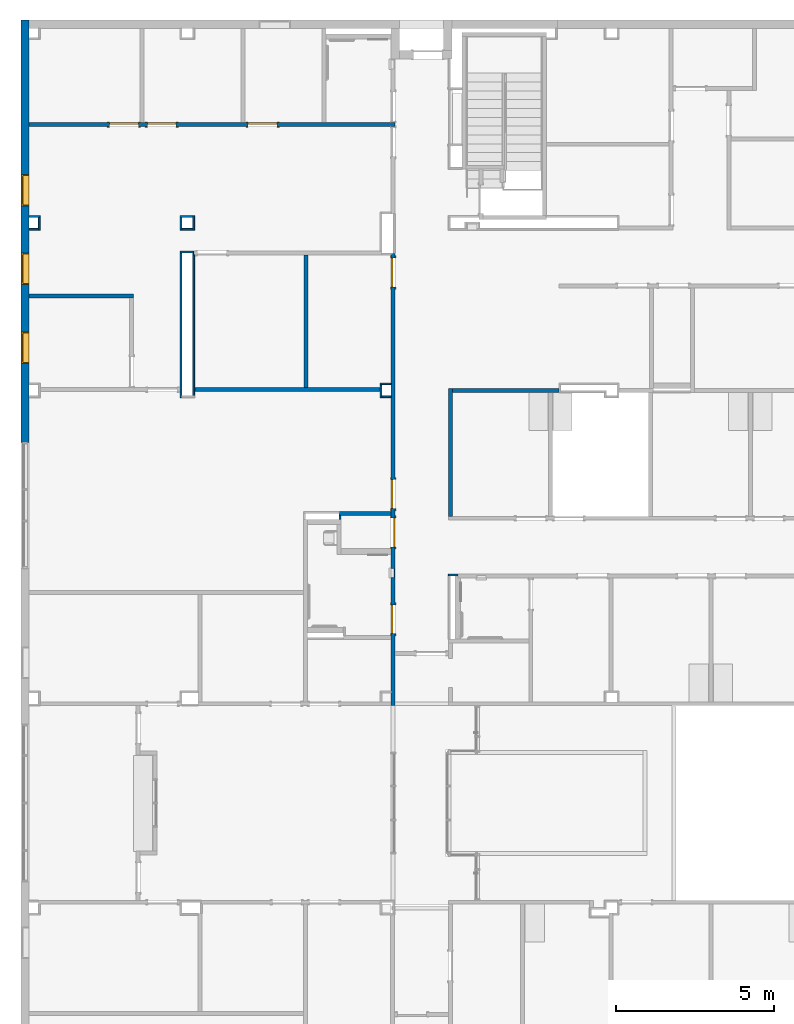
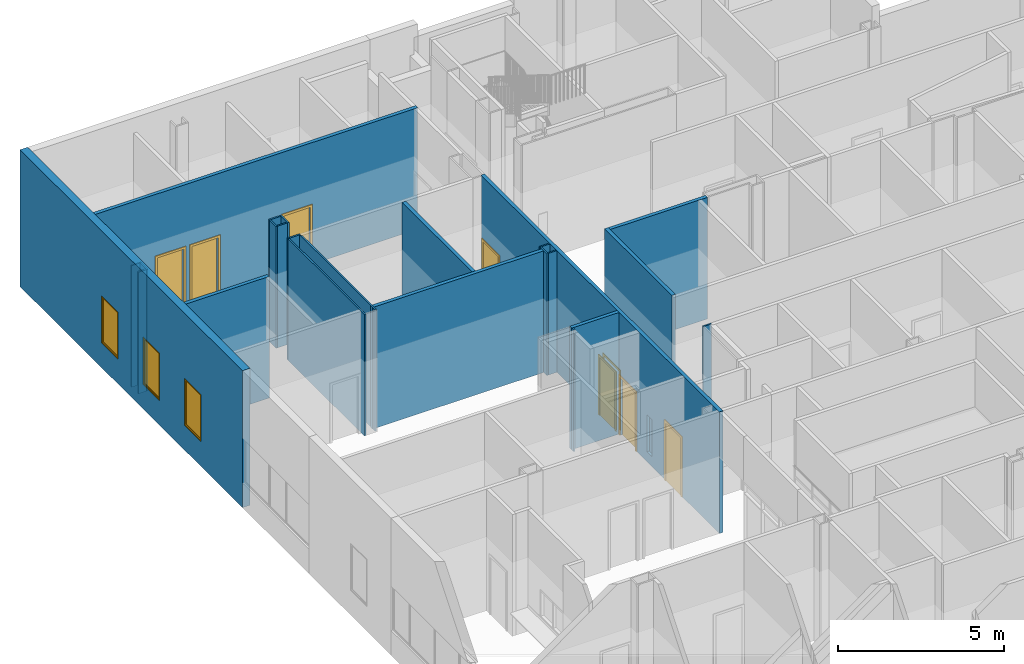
# One storey, part 31 of 82: 24 walls, 7 doors, 3 windows, 11 openings.
"""IFC2X3 building model written with IfcOpenShell, lengths in metres."""

import ifcopenshell
import ifcopenshell.guid

model = None  # the IFC model being written
_history = None  # IfcOwnerHistory: only IFC2X3 demands one
_inside = {}  # id of a spatial element -> (the spatial element, [elements in it])
_under = {}  # id of a project, library or spatial element -> (it, [spatial elements below it])
_declared = {}  # id of a project -> (the project, [libraries it declares])
_typed = {}  # id of a type object -> (the type object, [elements of that type])
_made_of = {}  # id of a material, layer set ... -> (it, [elements and type objects made of it])


def new_model(schema):
    """Start an empty IFC model of exactly this schema.

    Asked for "IFC4X3", IfcOpenShell would pick the latest addendum, in which some entities
    have other attributes; the version numbers below select the first issue.
    IFC2X3 requires an IfcOwnerHistory on every rooted entity: one is made here for all.
    """
    global model, _history
    if schema == "IFC4X3":
        model = ifcopenshell.file(schema_version=(4, 3, 0, 0))
    else:
        model = ifcopenshell.file(schema=schema)
    _inside.clear()
    _under.clear()
    _declared.clear()
    _typed.clear()
    _made_of.clear()
    _history = None
    if model.schema == "IFC2X3":
        org = make("IfcOrganization", Name="unknown")
        user = make(
            "IfcPersonAndOrganization",
            ThePerson=make("IfcPerson", FamilyName="unknown"),
            TheOrganization=org,
        )
        app = make(
            "IfcApplication",
            ApplicationDeveloper=org,
            Version="unknown",
            ApplicationFullName="unknown",
            ApplicationIdentifier="unknown",
        )
        _history = make(
            "IfcOwnerHistory",
            OwningUser=user,
            OwningApplication=app,
            ChangeAction="ADDED",
            CreationDate=0,
        )
    return model


def make(cls, **values):
    """One entity of the class cls with the attributes given. An attribute that is None is left unset."""
    return model.create_entity(
        cls, **{name: value for name, value in values.items() if value is not None}
    )


def entity(cls, *values):
    """Any entity or typed value of the class cls, its attributes in the order of the schema. None: left unset."""
    e = model.create_entity(cls)
    for i, value in enumerate(values):
        if value is not None:
            e[i] = value
    return e


def rooted(cls, **values):
    """An entity with a GlobalId (a new one), such as an element, a storey or a relation."""
    return make(cls, GlobalId=ifcopenshell.guid.new(), OwnerHistory=_history, **values)


def si_unit(unit_type, name, prefix=None):
    """IfcSIUnit, for example si_unit("LENGTHUNIT", "METRE", prefix="MILLI")."""
    return make("IfcSIUnit", UnitType=unit_type, Prefix=prefix, Name=name)


def converted_unit(unit_type, name, factor, base, dimensions=None, offset=None):
    """IfcConversionBasedUnit, such as the inch: factor (a typed value) times the base unit."""
    return make(
        "IfcConversionBasedUnit"
        if offset is None
        else "IfcConversionBasedUnitWithOffset",
        ConversionOffset=offset,
        Dimensions=None
        if dimensions is None
        else entity("IfcDimensionalExponents", *dimensions),
        UnitType=unit_type,
        Name=name,
        ConversionFactor=make(
            "IfcMeasureWithUnit", ValueComponent=factor, UnitComponent=base
        ),
    )


def assignment(units):
    """IfcUnitAssignment: the units of a project."""
    return None if units is None else make("IfcUnitAssignment", Units=units)


def point(xyz):
    """IfcCartesianPoint."""
    return None if xyz is None else make("IfcCartesianPoint", Coordinates=xyz)


def direction(xyz):
    """IfcDirection."""
    return None if xyz is None else make("IfcDirection", DirectionRatios=xyz)


def frame(location, z_axis=None, x_axis=None):
    """IfcAxis2Placement3D, a coordinate frame: its origin and axes. An axis left out is left unset."""
    return make(
        "IfcAxis2Placement3D",
        Location=point(location),
        Axis=direction(z_axis),
        RefDirection=direction(x_axis),
    )


def frame_2d(location, x_axis=None):
    """IfcAxis2Placement2D, a coordinate frame in the plane: its origin and x axis."""
    return make(
        "IfcAxis2Placement2D", Location=point(location), RefDirection=direction(x_axis)
    )


def origin():
    """The frame at (0, 0, 0) with its axes left unset."""
    return frame((0.0, 0.0, 0.0))


def origin_2d_with_axis():
    """The frame at (0, 0) in the plane with the x axis (1, 0) written out."""
    return frame_2d((0.0, 0.0), x_axis=(1.0, 0.0))


def place(relative_to, where):
    """IfcLocalPlacement: puts the frame where relative to a parent placement (None: the world)."""
    return make(
        "IfcLocalPlacement", PlacementRelTo=relative_to, RelativePlacement=where
    )


def context(
    kind, dimensions, precision=None, world=None, true_north=None, identifier=None
):
    """IfcGeometricRepresentationContext, for example the 3D "Model" context."""
    return make(
        "IfcGeometricRepresentationContext",
        ContextIdentifier=identifier,
        ContextType=kind,
        CoordinateSpaceDimension=dimensions,
        Precision=precision,
        WorldCoordinateSystem=world,
        TrueNorth=true_north,
    )


def project(units=None, contexts=None):
    """IfcProject with its units and contexts."""
    return rooted(
        "IfcProject",
        Name="project",
        RepresentationContexts=contexts,
        UnitsInContext=assignment(units),
    )


def spatial(cls, under=None, at=None, **own):
    """A site, building, storey or space (cls), placed at a placement, below another one or the project."""
    s = rooted(cls, ObjectPlacement=at, **own)
    if under is not None:
        _under.setdefault(under.id(), (under, []))[1].append(s)
    return s


def polyline(points):
    """IfcPolyline through the points."""
    return make("IfcPolyline", Points=[point(p) for p in points])


def profile(cls, at=None, kind="AREA", **sizes):
    """A parametric profile (cls). Its sizes go by their IFC names, for example OverallWidth=200.0."""
    return make(cls, ProfileType=kind, Position=at, **sizes)


def rectangle(**sizes):
    """IfcRectangleProfileDef."""
    return profile("IfcRectangleProfileDef", **sizes)


def outline(outer, holes=None, kind="AREA"):
    """IfcArbitraryClosedProfileDef: a profile drawn as a closed curve; with holes, ...WithVoids."""
    if holes is None:
        return make("IfcArbitraryClosedProfileDef", ProfileType=kind, OuterCurve=outer)
    return make(
        "IfcArbitraryProfileDefWithVoids",
        ProfileType=kind,
        OuterCurve=outer,
        InnerCurves=holes,
    )


def extrude(swept, where, along, depth):
    """IfcExtrudedAreaSolid: the profile swept, set in the frame where, extruded along a direction by depth."""
    return make(
        "IfcExtrudedAreaSolid",
        SweptArea=swept,
        Position=where,
        ExtrudedDirection=direction(along),
        Depth=depth,
    )


def shape(context_of_items, identifier, shape_type, items):
    """IfcShapeRepresentation: the items that make up one representation, for example the "Body"."""
    return make(
        "IfcShapeRepresentation",
        ContextOfItems=context_of_items,
        RepresentationIdentifier=identifier,
        RepresentationType=shape_type,
        Items=items,
    )


def source(mapping_origin, context_of_items, identifier, shape_type, items):
    """IfcRepresentationMap: a shape defined once, which mapped items show again and again."""
    return make(
        "IfcRepresentationMap",
        MappingOrigin=mapping_origin,
        MappedRepresentation=shape(context_of_items, identifier, shape_type, items),
    )


def transform(
    local_origin,
    x_axis=None,
    y_axis=None,
    z_axis=None,
    scale=None,
    scale2=None,
    scale3=None,
    uniform=True,
):
    """IfcCartesianTransformationOperator3D, or its non-uniform kind. x_axis, y_axis, z_axis: its Axis1, 2, 3."""
    if uniform:
        return make(
            "IfcCartesianTransformationOperator3D",
            Axis1=direction(x_axis),
            Axis2=direction(y_axis),
            LocalOrigin=point(local_origin),
            Scale=scale,
            Axis3=direction(z_axis),
        )
    return make(
        "IfcCartesianTransformationOperator3DnonUniform",
        Axis1=direction(x_axis),
        Axis2=direction(y_axis),
        LocalOrigin=point(local_origin),
        Scale=scale,
        Axis3=direction(z_axis),
        Scale2=scale2,
        Scale3=scale3,
    )


def mapped(mapping_source, mapping_target):
    """IfcMappedItem: shows the shape of a source again, moved by a transform."""
    return make(
        "IfcMappedItem", MappingSource=mapping_source, MappingTarget=mapping_target
    )


def material(Name=None, Category=None):
    """IfcMaterial."""
    return make("IfcMaterial", Name=Name, Category=Category)


def layer(
    of_material, thickness, ventilated=None, Name=None, Category=None, Priority=None
):
    """IfcMaterialLayer: one layer of a wall or slab, of a material (None: an air gap)."""
    return make(
        "IfcMaterialLayer",
        Material=of_material,
        LayerThickness=thickness,
        IsVentilated=ventilated,
        Name=Name,
        Category=Category,
        Priority=Priority,
    )


def layer_set(layers, Name=None):
    """IfcMaterialLayerSet."""
    return make("IfcMaterialLayerSet", MaterialLayers=layers, LayerSetName=Name)


def layer_usage(for_layer_set, set_direction, sense, offset, extent=None):
    """IfcMaterialLayerSetUsage: how a layer set lies in its element."""
    return make(
        "IfcMaterialLayerSetUsage",
        ForLayerSet=for_layer_set,
        LayerSetDirection=set_direction,
        DirectionSense=sense,
        OffsetFromReferenceLine=offset,
        ReferenceExtent=extent,
    )


def made_of(thing, what):
    """Note that an element or type object is made of a material, layer set ...; save() writes the relation."""
    if what is not None:
        _made_of.setdefault(what.id(), (what, []))[1].append(thing)
    return thing


def type_object(cls, material=None, **own):
    """A type object (cls), such as IfcWallType, which elements share."""
    return made_of(rooted(cls, **own), material)


def type_shapes(of_type, sources):
    """Give a type object the sources (RepresentationMaps) that its elements show as mapped items."""
    of_type.RepresentationMaps = sources


def element(
    cls,
    number,
    at=None,
    inside=None,
    cuts=None,
    type_object=None,
    material=None,
    context=None,
    identifier="Body",
    shape_type=None,
    held_by="IfcProductDefinitionShape",
    body=None,
    shapes=None,
    **own,
):
    """One element of the class cls, such as IfcWall. Its Tag is "e" and its number.

    at: its placement. inside: the storey or other place that contains it. cuts: it is an
    opening in that element (IfcRelVoidsElement). A single representation is given by context,
    identifier, shape_type and body (its items); several are given by shapes. held_by: the class
    of the entity that holds the representations. save() writes the other relations.
    """
    e = rooted(cls, Tag="e%d" % number, ObjectPlacement=at, **own)
    if body is not None:
        shapes = [shape(context, identifier, shape_type, body)]
    if shapes is not None:
        e.Representation = make(held_by, Representations=shapes)
    if inside is not None:
        _inside.setdefault(inside.id(), (inside, []))[1].append(e)
    if cuts is not None:
        rooted(
            "IfcRelVoidsElement", RelatingBuildingElement=cuts, RelatedOpeningElement=e
        )
    if type_object is not None:
        _typed.setdefault(type_object.id(), (type_object, []))[1].append(e)
    return made_of(e, material)


def fill(opening, filler):
    """IfcRelFillsElement: the door or window that sits in an opening."""
    return rooted(
        "IfcRelFillsElement",
        RelatingOpeningElement=opening,
        RelatedBuildingElement=filler,
    )


def aggregate(whole, parts):
    """IfcRelAggregates: a whole, such as a stair, and the parts it consists of."""
    return rooted("IfcRelAggregates", RelatingObject=whole, RelatedObjects=parts)


def save(model, path):
    """Write the relations noted so far, then the file.

    IfcRelAggregates (storeys below a building ...), IfcRelContainedInSpatialStructure (elements
    in a storey), IfcRelDefinesByType, IfcRelAssociatesMaterial and IfcRelDeclares: one each for
    every whole, place, type object, material and project.
    """
    for whole, parts in _under.values():
        aggregate(whole, parts)
    for where, things in _inside.values():
        rooted(
            "IfcRelContainedInSpatialStructure",
            RelatedElements=things,
            RelatingStructure=where,
        )
    for kind, things in _typed.values():
        rooted("IfcRelDefinesByType", RelatedObjects=things, RelatingType=kind)
    for what, things in _made_of.values():
        rooted("IfcRelAssociatesMaterial", RelatedObjects=things, RelatingMaterial=what)
    for by, libraries in _declared.values():
        rooted("IfcRelDeclares", RelatingContext=by, RelatedDefinitions=libraries)
    model.write(path)


model = new_model("IFC2X3")

# Units and contexts
model_context = context("Model", 3, precision=1e-09, world=origin())
plan_context = context("Plan", 3, precision=1e-09, world=origin())
ifc_project = project(units=[si_unit("LENGTHUNIT", "METRE"), si_unit("AREAUNIT", "SQUARE_METRE"), si_unit("VOLUMEUNIT", "CUBIC_METRE"), converted_unit("PLANEANGLEUNIT", "DEGREE", entity("IfcRatioMeasure", 0.01745329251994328), si_unit("PLANEANGLEUNIT", "RADIAN"), dimensions=[0, 0, 0, 0, 0, 0, 0]), si_unit("TIMEUNIT", "SECOND")], contexts=[model_context, plan_context])

# Site, building, storey
site_placement = place(None, origin())
site = spatial("IfcSite", under=ifc_project, at=site_placement, Name="Default", CompositionType="ELEMENT")
building_placement = place(site_placement, origin())
building = spatial("IfcBuilding", under=site, at=building_placement, CompositionType="ELEMENT")
storey_placement = place(building_placement, origin())
storey = spatial("IfcBuildingStorey", under=building, at=storey_placement, Name="First Floor", CompositionType="ELEMENT", Elevation=-3.531500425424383e-13)

# Wall, openings, doors
ifc_material_1 = material(Name="Plasterboard")
ifc_layer_1 = layer(ifc_material_1, 0.016)
ifc_material_2 = material(Name="Metal - Stud Layer")
ifc_layer_2 = layer(ifc_material_2, 0.092)
ifc_layer_3 = layer(ifc_material_1, 0.016)
ifc_layer_set_1 = layer_set([ifc_layer_1, ifc_layer_2, ifc_layer_3], Name="Basic Wall:Interior - Partition (92mm Stud)")
ifc_layer_usage_1 = layer_usage(ifc_layer_set_1, "AXIS2", "NEGATIVE", 0.062)
wall_1_placement = place(storey_placement, frame((-40.47500000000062, 49.12399999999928, 0.0), z_axis=(0.0, 0.0, 1.0), x_axis=(0.0, -1.0, 0.0)))
wall_1 = element("IfcWallStandardCase", 1, at=wall_1_placement, inside=storey, material=ifc_layer_usage_1, Name="Basic Wall:Interior - Partition (92mm Stud)", ObjectType="Basic Wall:Interior - Partition (92mm Stud)", context=model_context, shape_type="SweptSolid", body=[
    extrude(rectangle(XDim=14.34400000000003, YDim=0.1240000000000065, at=frame_2d((7.172000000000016, 0.0), x_axis=(-1.0, 0.0))), origin(), (0.0, 0.0, 1.0), 4.468000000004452),
])
opening_1_placement = place(wall_1_placement, origin())
element("IfcOpeningElement", 2, at=opening_1_placement, cuts=wall_1, ObjectType="Opening", context=model_context, shape_type="SweptSolid", body=[
    extrude(rectangle(XDim=1.362075, YDim=0.2984500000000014, at=origin_2d_with_axis()), frame((10.13570000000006, -0.1255000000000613, 1.041399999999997), z_axis=(0.0, 1.0, 0.0), x_axis=(0.0, 0.0, -1.0)), (0.0, 0.0, 1.0), 0.15240000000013),
])
opening_2_placement = place(wall_1_placement, frame((8.391600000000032, -0.06200000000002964, 0.0)))
opening_2 = element("IfcOpeningElement", 3, at=opening_2_placement, cuts=wall_1, Name=":1", ObjectType="Opening", context=model_context, shape_type="SweptSolid", body=[
    extrude(rectangle(XDim=0.9149999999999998, YDim=2.134, at=frame_2d((1.067, 0.4575), x_axis=(0.0, 1.0))), frame((0.0, 0.0, 0.0), z_axis=(0.0, 1.0, 0.0), x_axis=(0.0, 0.0, 1.0)), (0.0, 0.0, 1.0), 0.124),
])
opening_3_placement = place(wall_1_placement, frame((12.05999999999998, 0.06199999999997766, 0.0)))
opening_3 = element("IfcOpeningElement", 4, at=opening_3_placement, cuts=wall_1, Name=":1", ObjectType="Opening", context=model_context, shape_type="SweptSolid", body=[
    extrude(rectangle(XDim=0.9149999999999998, YDim=2.134, at=frame_2d((1.067, 0.4574999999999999), x_axis=(0.0, -1.0))), frame((0.0, 0.0, 0.0), z_axis=(0.0, -1.0, 0.0), x_axis=(0.0, 0.0, 1.0)), (0.0, 0.0, 1.0), 0.124),
])
opening_4_placement = place(wall_1_placement, frame((8.094000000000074, 0.06199999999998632, 0.0)))
opening_4 = element("IfcOpeningElement", 5, at=opening_4_placement, cuts=wall_1, Name=":1", ObjectType="Opening", context=model_context, shape_type="SweptSolid", body=[
    extrude(rectangle(XDim=0.9149999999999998, YDim=2.134, at=frame_2d((1.067, 0.4574999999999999), x_axis=(0.0, -1.0))), frame((0.0, 0.0, 0.0), z_axis=(0.0, -1.0, 0.0), x_axis=(0.0, 0.0, 1.0)), (0.0, 0.0, 1.0), 0.124),
])
opening_5_placement = place(wall_1_placement, frame((1.068999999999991, 0.06199999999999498, 0.0)))
opening_5 = element("IfcOpeningElement", 6, at=opening_5_placement, cuts=wall_1, Name=":1", ObjectType="Opening", context=model_context, shape_type="SweptSolid", body=[
    extrude(rectangle(XDim=0.9149999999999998, YDim=2.134, at=frame_2d((1.067, 0.4575), x_axis=(0.0, 1.0))), frame((0.0, 0.0, 0.0), z_axis=(0.0, -1.0, 0.0), x_axis=(0.0, 0.0, 1.0)), (0.0, 0.0, 1.0), 0.124),
])
door_style_1 = type_object("IfcDoorStyle", Name="0915 x 2134mm", ConstructionType="NOTDEFINED", OperationType="SINGLE_SWING_RIGHT", ParameterTakesPrecedence=False, Sizeable=False)
shared_shape_1 = source(origin(), model_context, "Body", "SweptSolid", [
    extrude(outline(polyline([(-0.5335, -1.123999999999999), (0.5334999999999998, -1.123999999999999), (0.5334999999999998, 1.086), (0.4574999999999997, 1.086), (0.4574999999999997, -1.048000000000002), (-0.4574999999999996, -1.048000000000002), (-0.4574999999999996, 1.086), (-0.5335, 1.086), (-0.5335, -1.123999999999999)])), frame((0.4575000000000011, 0.1239999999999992, 1.086), z_axis=(0.0, 1.0, 0.0), x_axis=(1.0, 0.0, 0.0)), (0.0, 0.0, 1.0), 0.02499999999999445),
    extrude(outline(polyline([(-1.123999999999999, -0.5334999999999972), (1.085999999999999, -0.5334999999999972), (1.085999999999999, -0.4575000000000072), (-1.048, -0.4575000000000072), (-1.048, 0.4575000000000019), (1.085999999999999, 0.4575000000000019), (1.085999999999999, 0.5335000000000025), (-1.123999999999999, 0.5335000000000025), (-1.123999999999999, -0.5334999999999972)])), frame((0.4575000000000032, -0.02500000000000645, 1.085999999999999), z_axis=(0.0, 1.0, 0.0), x_axis=(0.0, 0.0, -1.0)), (0.0, 0.0, 1.0), 0.02500000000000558),
    extrude(rectangle(XDim=0.051, YDim=0.9149999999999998, at=origin_2d_with_axis()), frame((0.4575000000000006, 0.09849999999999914, 0.0), z_axis=(0.0, 0.0, 1.0), x_axis=(0.0, 1.0, 0.0)), (0.0, 0.0, 1.0), 2.133999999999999),
])
type_shapes(door_style_1, [shared_shape_1])
door_1_placement = place(opening_2_placement, origin())
door_1 = element("IfcDoor", 7, at=door_1_placement, inside=storey, type_object=door_style_1, Name="M_Single-Flush:0915 x 2134mm:0915 x 2134mm", ObjectType="0915 x 2134mm", OverallHeight=2.134, OverallWidth=0.9149999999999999, context=model_context, shape_type="MappedRepresentation", body=[
    mapped(shared_shape_1, transform((0.0, 0.0, 0.0), scale=1.0)),
])
fill(opening_2, door_1)
door_2_placement = place(opening_5_placement, frame((0.0, 0.0, 0.0), z_axis=(0.0, 0.0, 1.0), x_axis=(-1.0, 0.0, 0.0)))
door_2 = element("IfcDoor", 8, at=door_2_placement, inside=storey, type_object=door_style_1, Name="M_Single-Flush:0915 x 2134mm:0915 x 2134mm", ObjectType="0915 x 2134mm", OverallHeight=2.134, OverallWidth=0.9149999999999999, context=model_context, shape_type="MappedRepresentation", body=[
    mapped(shared_shape_1, transform((0.0, 0.0, 0.0), scale=1.0)),
])
fill(opening_5, door_2)
door_style_2 = type_object("IfcDoorStyle", Name="0915 x 2134mm", ConstructionType="NOTDEFINED", OperationType="SINGLE_SWING_LEFT", ParameterTakesPrecedence=False, Sizeable=False)
shared_shape_2 = source(origin(), model_context, "Body", "SweptSolid", [
    extrude(outline(polyline([(-0.5335, -1.123999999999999), (0.5334999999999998, -1.123999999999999), (0.5334999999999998, 1.086), (0.4574999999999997, 1.086), (0.4574999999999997, -1.048000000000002), (-0.4574999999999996, -1.048000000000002), (-0.4574999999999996, 1.086), (-0.5335, 1.086), (-0.5335, -1.123999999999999)])), frame((0.4575000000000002, 0.1489999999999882, 1.086), z_axis=(0.0, -1.0, 0.0), x_axis=(-1.0, 0.0, 0.0)), (0.0, 0.0, 1.0), 0.02499999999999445),
    extrude(outline(polyline([(-1.123999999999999, -0.5334999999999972), (1.085999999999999, -0.5334999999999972), (1.085999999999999, -0.4575000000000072), (-1.048, -0.4575000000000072), (-1.048, 0.4575000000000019), (1.085999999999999, 0.4575000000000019), (1.085999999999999, 0.5335000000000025), (-1.123999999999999, 0.5335000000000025), (-1.123999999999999, -0.5334999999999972)])), frame((0.4574999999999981, 0.0, 1.085999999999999), z_axis=(0.0, -1.0, 0.0), x_axis=(0.0, 0.0, -1.0)), (0.0, 0.0, 1.0), 0.02500000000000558),
    extrude(rectangle(XDim=0.9149999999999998, YDim=0.051, at=origin_2d_with_axis()), frame((0.4575000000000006, 0.09849999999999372, 0.0)), (0.0, 0.0, 1.0), 2.133999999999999),
])
type_shapes(door_style_2, [shared_shape_2])
door_3_placement = place(opening_3_placement, frame((0.0, 0.0, 0.0), z_axis=(0.0, 0.0, 1.0), x_axis=(-1.0, 0.0, 0.0)))
door_3 = element("IfcDoor", 9, at=door_3_placement, inside=storey, type_object=door_style_2, Name="M_Single-Flush:0915 x 2134mm:0915 x 2134mm", ObjectType="0915 x 2134mm", OverallHeight=2.134, OverallWidth=0.9149999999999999, context=model_context, shape_type="MappedRepresentation", body=[
    mapped(shared_shape_2, transform((0.0, 0.0, 0.0), scale=1.0)),
])
fill(opening_3, door_3)
door_4_placement = place(opening_4_placement, frame((0.0, 0.0, 0.0), z_axis=(0.0, 0.0, 1.0), x_axis=(-1.0, 0.0, 0.0)))
door_4 = element("IfcDoor", 10, at=door_4_placement, inside=storey, type_object=door_style_2, Name="M_Single-Flush:0915 x 2134mm:0915 x 2134mm", ObjectType="0915 x 2134mm", OverallHeight=2.134, OverallWidth=0.9149999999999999, context=model_context, shape_type="MappedRepresentation", body=[
    mapped(shared_shape_2, transform((0.0, 0.0, 0.0), scale=1.0)),
])
fill(opening_4, door_4)

# Wall, openings, windows
ifc_material_3 = material(Name="Insulation - Insulated Panel")
ifc_layer_4 = layer(ifc_material_3, 0.042)
ifc_material_4 = material(Name="Metal - Firring")
ifc_layer_5 = layer(ifc_material_4, 0.038)
ifc_material_5 = material(Name="Wood - Sheathing - plywood")
ifc_layer_6 = layer(ifc_material_5, 0.019)
ifc_layer_7 = layer(ifc_material_2, 0.152)
ifc_layer_8 = layer(ifc_material_1, 0.016)
ifc_layer_set_2 = layer_set([ifc_layer_4, ifc_layer_5, ifc_layer_6, ifc_layer_7, ifc_layer_8], Name="Basic Wall:Exterior - Insul Panel on Mtl. Stud")
ifc_layer_usage_2 = layer_usage(ifc_layer_set_2, "AXIS2", "NEGATIVE", 0.1335)
wall_2_placement = place(storey_placement, frame((-52.14650000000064, 43.12995228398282, 0.0), z_axis=(0.0, 0.0, 1.0), x_axis=(0.0, 1.0, 0.0)))
wall_2 = element("IfcWallStandardCase", 11, at=wall_2_placement, inside=storey, material=ifc_layer_usage_2, Name="Basic Wall:Exterior - Insul Panel on Mtl. Stud", ObjectType="Basic Wall:Exterior - Insul Panel on Mtl. Stud", context=model_context, shape_type="SweptSolid", body=[
    extrude(rectangle(XDim=13.39004771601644, YDim=0.2670000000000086, at=frame_2d((6.695023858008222, 0.0), x_axis=(-1.0, 0.0))), origin(), (0.0, 0.0, 1.0), 5.02700000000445),
])
opening_6_placement = place(wall_2_placement, frame((7.490047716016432, -0.1335000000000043, 0.9049999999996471)))
opening_6 = element("IfcOpeningElement", 12, at=opening_6_placement, cuts=wall_2, Name=":1", ObjectType="Opening", context=model_context, shape_type="SweptSolid", body=[
    extrude(rectangle(XDim=1.734999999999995, YDim=0.9999999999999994, at=frame_2d((0.8674999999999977, 0.5000000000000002), x_axis=(1.0, 0.0))), frame((0.0, 0.0, 0.0), z_axis=(0.0, 1.0, 0.0), x_axis=(0.0, 0.0, 1.0)), (0.0, 0.0, 1.0), 0.267),
])
opening_7_placement = place(wall_2_placement, frame((5.000047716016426, -0.1335000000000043, 0.9049999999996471)))
opening_7 = element("IfcOpeningElement", 13, at=opening_7_placement, cuts=wall_2, Name=":1", ObjectType="Opening", context=model_context, shape_type="SweptSolid", body=[
    extrude(rectangle(XDim=1.734999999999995, YDim=0.9999999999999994, at=frame_2d((0.8674999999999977, 0.5000000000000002), x_axis=(1.0, 0.0))), frame((0.0, 0.0, 0.0), z_axis=(0.0, 1.0, 0.0), x_axis=(0.0, 0.0, 1.0)), (0.0, 0.0, 1.0), 0.267),
])
opening_8_placement = place(wall_2_placement, frame((2.500047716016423, -0.1334999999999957, 0.9049999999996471)))
opening_8 = element("IfcOpeningElement", 14, at=opening_8_placement, cuts=wall_2, Name=":1", ObjectType="Opening", context=model_context, shape_type="SweptSolid", body=[
    extrude(rectangle(XDim=1.734999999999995, YDim=0.9999999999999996, at=frame_2d((0.8674999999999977, 0.4999999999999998), x_axis=(1.0, 0.0))), frame((0.0, 0.0, 0.0), z_axis=(0.0, 1.0, 0.0), x_axis=(0.0, 0.0, 1.0)), (0.0, 0.0, 1.0), 0.267),
])
window_style = type_object("IfcWindowStyle", Name="1735 x 1000mm", ConstructionType="NOTDEFINED", OperationType="NOTDEFINED", ParameterTakesPrecedence=False, Sizeable=False)
shared_shape_3 = source(origin(), model_context, "Body", "SweptSolid", [
    extrude(rectangle(XDim=0.012, YDim=0.873999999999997, at=origin_2d_with_axis()), frame((0.5000000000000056, 0.2259999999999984, 0.06299999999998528), z_axis=(0.0, 0.0, 1.0), x_axis=(0.0, -1.0, 0.0)), (0.0, 0.0, 1.0), 1.609000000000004),
    extrude(outline(polyline([(-0.4809999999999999, -0.8485000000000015), (0.4809999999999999, -0.8485000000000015), (0.4809999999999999, 0.8485000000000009), (-0.4809999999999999, 0.8485000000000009), (-0.4809999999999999, -0.8485000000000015)]), holes=[polyline([(-0.4369999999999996, -0.8045000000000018), (-0.4369999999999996, 0.8045000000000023), (0.4369999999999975, 0.8045000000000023), (0.4369999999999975, -0.8045000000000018), (-0.4369999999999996, -0.8045000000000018)])]), frame((0.5000000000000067, 0.203999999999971, 0.8674999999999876), z_axis=(0.0, 1.0, 0.0), x_axis=(1.0, 0.0, 0.0)), (0.0, 0.0, 1.0), 0.04400000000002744),
    extrude(outline(polyline([(-0.4999999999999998, -0.8674999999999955), (0.4999999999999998, -0.8674999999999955), (0.4999999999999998, 0.8674999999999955), (-0.4999999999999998, 0.8674999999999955), (-0.4999999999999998, -0.8674999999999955)]), holes=[polyline([(-0.4810000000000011, -0.8484999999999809), (-0.4810000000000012, 0.8485000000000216), (0.4809999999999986, 0.8485000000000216), (0.4809999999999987, -0.8484999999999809), (-0.4810000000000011, -0.8484999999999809)])]), frame((0.500000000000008, 0.203999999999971, 0.8675000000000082), z_axis=(0.0, 1.0, 0.0), x_axis=(1.0, 0.0, 0.0)), (0.0, 0.0, 1.0), 0.06300000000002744),
    extrude(outline(polyline([(-0.5000000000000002, -0.867499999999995), (0.5000000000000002, -0.867499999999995), (0.5000000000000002, 0.867499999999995), (-0.5000000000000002, 0.867499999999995), (-0.5000000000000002, -0.867499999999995)]), holes=[polyline([(-0.4679999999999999, -0.8354999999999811), (-0.4679999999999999, 0.8355000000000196), (0.4680000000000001, 0.8355000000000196), (0.4680000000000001, -0.8354999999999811), (-0.4679999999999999, -0.8354999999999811)])]), frame((0.5000000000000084, 0.0, 0.8675000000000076), z_axis=(0.0, 1.0, 0.0), x_axis=(1.0, 0.0, 0.0)), (0.0, 0.0, 1.0), 0.2039999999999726),
])
type_shapes(window_style, [shared_shape_3])
window_1_placement = place(opening_8_placement, origin())
window_1 = element("IfcWindow", 15, at=window_1_placement, inside=storey, type_object=window_style, Name="M_Fixed:1735 x 1000mm:1735 x 1000mm", ObjectType="1735 x 1000mm", OverallHeight=1.734999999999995, OverallWidth=0.9999999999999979, context=model_context, shape_type="MappedRepresentation", body=[
    mapped(shared_shape_3, transform((0.0, 0.0, 0.0), scale=1.0)),
])
fill(opening_8, window_1)
window_2_placement = place(opening_6_placement, origin())
window_2 = element("IfcWindow", 16, at=window_2_placement, inside=storey, type_object=window_style, Name="M_Fixed:1735 x 1000mm:1735 x 1000mm", ObjectType="1735 x 1000mm", OverallHeight=1.734999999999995, OverallWidth=0.9999999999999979, context=model_context, shape_type="MappedRepresentation", body=[
    mapped(shared_shape_3, transform((0.0, 0.0, 0.0), scale=1.0)),
])
fill(opening_6, window_2)
window_3_placement = place(opening_7_placement, origin())
window_3 = element("IfcWindow", 17, at=window_3_placement, inside=storey, type_object=window_style, Name="M_Fixed:1735 x 1000mm:1735 x 1000mm", ObjectType="1735 x 1000mm", OverallHeight=1.734999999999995, OverallWidth=0.9999999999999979, context=model_context, shape_type="MappedRepresentation", body=[
    mapped(shared_shape_3, transform((0.0, 0.0, 0.0), scale=1.0)),
])
fill(opening_7, window_3)

# Wall, openings, doors
wall_3_placement = place(storey_placement, frame((-52.01300000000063, 53.20199999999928, 0.0)))
wall_3 = element("IfcWallStandardCase", 18, at=wall_3_placement, inside=storey, material=ifc_layer_usage_1, Name="Basic Wall:Interior - Partition (92mm Stud)", ObjectType="Basic Wall:Interior - Partition (92mm Stud)", context=model_context, shape_type="SweptSolid", body=[
    extrude(rectangle(XDim=11.60000000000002, YDim=0.1240000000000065, at=frame_2d((5.800000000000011, 0.0), x_axis=(-1.0, 0.0))), origin(), (0.0, 0.0, 1.0), 4.46800000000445),
])
opening_9_placement = place(wall_3_placement, frame((2.543999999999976, -0.06200000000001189, 0.0)))
opening_9 = element("IfcOpeningElement", 19, at=opening_9_placement, cuts=wall_3, Name="M_Single-Flush:0915 x 2134mm:0915 x 2134mm:1", ObjectType="Opening", context=model_context, shape_type="SweptSolid", body=[
    extrude(rectangle(XDim=0.9149999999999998, YDim=2.134, at=frame_2d((1.067, 0.4575), x_axis=(0.0, 1.0))), frame((0.0, 0.0, 0.0), z_axis=(0.0, 1.0, 0.0), x_axis=(0.0, 0.0, 1.0)), (0.0, 0.0, 1.0), 0.124),
])
opening_10_placement = place(wall_3_placement, frame((3.742999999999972, -0.06200000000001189, 0.0)))
opening_10 = element("IfcOpeningElement", 20, at=opening_10_placement, cuts=wall_3, Name="M_Single-Flush:0915 x 2134mm:0915 x 2134mm:1", ObjectType="Opening", context=model_context, shape_type="SweptSolid", body=[
    extrude(rectangle(XDim=0.9149999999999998, YDim=2.134, at=frame_2d((1.067, 0.4574999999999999), x_axis=(0.0, -1.0))), frame((0.0, 0.0, 0.0), z_axis=(0.0, 1.0, 0.0), x_axis=(0.0, 0.0, 1.0)), (0.0, 0.0, 1.0), 0.124),
])
opening_11_placement = place(wall_3_placement, frame((6.942999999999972, -0.06200000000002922, 0.0)))
opening_11 = element("IfcOpeningElement", 21, at=opening_11_placement, cuts=wall_3, Name="M_Single-Flush:0915 x 2134mm:0915 x 2134mm:1", ObjectType="Opening", context=model_context, shape_type="SweptSolid", body=[
    extrude(rectangle(XDim=0.9149999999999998, YDim=2.134, at=frame_2d((1.067, 0.4574999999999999), x_axis=(0.0, -1.0))), frame((0.0, 0.0, 0.0), z_axis=(0.0, 1.0, 0.0), x_axis=(0.0, 0.0, 1.0)), (0.0, 0.0, 1.0), 0.124),
])
door_5_placement = place(opening_9_placement, origin())
door_5 = element("IfcDoor", 22, at=door_5_placement, inside=storey, type_object=door_style_1, Name="M_Single-Flush:0915 x 2134mm:0915 x 2134mm", ObjectType="0915 x 2134mm", OverallHeight=2.134, OverallWidth=0.9149999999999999, context=model_context, shape_type="MappedRepresentation", body=[
    mapped(shared_shape_1, transform((0.0, 0.0, 0.0), scale=1.0)),
])
fill(opening_9, door_5)
door_6_placement = place(opening_11_placement, origin())
door_6 = element("IfcDoor", 23, at=door_6_placement, inside=storey, type_object=door_style_2, Name="M_Single-Flush:0915 x 2134mm:0915 x 2134mm", ObjectType="0915 x 2134mm", OverallHeight=2.134, OverallWidth=0.9149999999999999, context=model_context, shape_type="MappedRepresentation", body=[
    mapped(shared_shape_2, transform((0.0, 0.0, 0.0), scale=1.0)),
])
fill(opening_11, door_6)
door_7_placement = place(opening_10_placement, origin())
door_7 = element("IfcDoor", 24, at=door_7_placement, inside=storey, type_object=door_style_2, Name="M_Single-Flush:0915 x 2134mm:0915 x 2134mm", ObjectType="0915 x 2134mm", OverallHeight=2.134, OverallWidth=0.9149999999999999, context=model_context, shape_type="MappedRepresentation", body=[
    mapped(shared_shape_2, transform((0.0, 0.0, 0.0), scale=1.0)),
])
fill(opening_10, door_7)

# Walls
wall_4_placement = place(storey_placement, frame((-38.59600000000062, 44.76799999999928, 0.0)))
element("IfcWallStandardCase", 25, at=wall_4_placement, inside=storey, material=ifc_layer_usage_1, Name="Basic Wall:Interior - Partition (92mm Stud)", ObjectType="Basic Wall:Interior - Partition (92mm Stud)", context=model_context, shape_type="SweptSolid", body=[
    extrude(rectangle(XDim=3.380999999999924, YDim=0.1240000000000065, at=frame_2d((1.690499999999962, 0.0), x_axis=(-1.0, 0.0))), origin(), (0.0, 0.0, 1.0), 4.46800000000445),
])
ifc_layer_9 = layer(ifc_material_2, 0.038)
ifc_layer_10 = layer(ifc_material_1, 0.016)
ifc_layer_set_3 = layer_set([ifc_layer_9, ifc_layer_10], Name="Basic Wall:Interior - Furring (38 mm Stud)")
ifc_layer_usage_3 = layer_usage(ifc_layer_set_3, "AXIS2", "NEGATIVE", 0.027)
wall_5_placement = place(storey_placement, frame((-42.15780000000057, 40.69139999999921, 0.0), z_axis=(0.0, 0.0, 1.0), x_axis=(0.0, 1.0, 0.0)))
element("IfcWallStandardCase", 26, at=wall_5_placement, inside=storey, material=ifc_layer_usage_3, Name="Basic Wall:Interior - Furring (38 mm Stud)", ObjectType="Basic Wall:Interior - Furring (38 mm Stud)", context=model_context, shape_type="SweptSolid", body=[
    extrude(rectangle(XDim=0.1145999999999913, YDim=0.05400000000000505, at=frame_2d((0.05729999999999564, 0.0), x_axis=(-1.0, 0.0))), origin(), (0.0, 0.0, 1.0), 4.46800000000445),
])
wall_6_placement = place(storey_placement, frame((-42.18480000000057, 40.8679999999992, 0.0)))
element("IfcWallStandardCase", 27, at=wall_6_placement, inside=storey, material=ifc_layer_usage_1, Name="Basic Wall:Interior - Partition (92mm Stud)", ObjectType="Basic Wall:Interior - Partition (92mm Stud)", context=model_context, shape_type="SweptSolid", body=[
    extrude(rectangle(XDim=1.647799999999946, YDim=0.1240000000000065, at=frame_2d((0.823899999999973, 0.0), x_axis=(-1.0, 0.0))), origin(), (0.0, 0.0, 1.0), 4.468000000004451),
])
wall_7_placement = place(storey_placement, frame((-46.79700000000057, 44.60399999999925, 0.0), z_axis=(0.0, 0.0, 1.0), x_axis=(0.0, 1.0, 0.0)))
element("IfcWallStandardCase", 28, at=wall_7_placement, inside=storey, material=ifc_layer_usage_3, Name="Basic Wall:Interior - Furring (38 mm Stud)", ObjectType="Basic Wall:Interior - Furring (38 mm Stud)", context=model_context, shape_type="SweptSolid", body=[
    extrude(outline(polyline([(4.466000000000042, -0.02699999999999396), (4.466000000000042, 0.0), (4.536000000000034, 0.0), (4.536000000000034, 0.02700000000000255), (0.0, 0.02700000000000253), (0.0, -0.02699999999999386), (4.466000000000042, -0.02699999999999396)])), origin(), (0.0, 0.0, 1.0), 4.468000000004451),
])
wall_8_placement = place(storey_placement, frame((-40.89000000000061, 44.80199999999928, 0.0), z_axis=(0.0, 0.0, 1.0), x_axis=(-1.0, 0.0, 0.0)))
element("IfcWallStandardCase", 29, at=wall_8_placement, inside=storey, material=ifc_layer_usage_1, Name="Basic Wall:Interior - Partition (92mm Stud)", ObjectType="Basic Wall:Interior - Partition (92mm Stud)", context=model_context, shape_type="SweptSolid", body=[
    extrude(rectangle(XDim=5.941999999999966, YDim=0.1240000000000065, at=frame_2d((2.970999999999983, 0.0), x_axis=(-1.0, 0.0))), origin(), (0.0, 0.0, 1.0), 4.46800000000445),
])
wall_9_placement = place(storey_placement, frame((-38.42400000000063, 38.92299999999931, 0.0), z_axis=(0.0, 0.0, 1.0), x_axis=(-1.0, 0.0, 0.0)))
element("IfcWallStandardCase", 30, at=wall_9_placement, inside=storey, material=ifc_layer_usage_3, Name="Basic Wall:Interior - Furring (38 mm Stud)", ObjectType="Basic Wall:Interior - Furring (38 mm Stud)", context=model_context, shape_type="SweptSolid", body=[
    extrude(rectangle(XDim=0.296000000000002, YDim=0.05399999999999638, at=frame_2d((0.148000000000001, 0.0), x_axis=(-1.0, 0.0))), origin(), (0.0, 0.0, 1.0), 4.46800000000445),
])
wall_10_placement = place(storey_placement, frame((-38.65800000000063, 40.78399999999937, 0.0), z_axis=(0.0, 0.0, 1.0), x_axis=(0.0, 1.0, 0.0)))
element("IfcWallStandardCase", 31, at=wall_10_placement, inside=storey, material=ifc_layer_usage_1, Name="Basic Wall:Interior - Partition (92mm Stud)", ObjectType="Basic Wall:Interior - Partition (92mm Stud)", context=model_context, shape_type="SweptSolid", body=[
    extrude(rectangle(XDim=4.045999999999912, YDim=0.1239999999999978, at=frame_2d((2.022999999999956, 0.0), x_axis=(-1.0, 0.0))), origin(), (0.0, 0.0, 1.0), 4.46800000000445),
])
wall_11_placement = place(storey_placement, frame((-40.86300000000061, 44.95599999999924, 0.0), z_axis=(0.0, 0.0, 1.0), x_axis=(0.0, -1.0, 0.0)))
element("IfcWallStandardCase", 32, at=wall_11_placement, inside=storey, material=ifc_layer_usage_3, Name="Basic Wall:Interior - Furring (38 mm Stud)", ObjectType="Basic Wall:Interior - Furring (38 mm Stud)", context=model_context, shape_type="SweptSolid", body=[
    extrude(rectangle(XDim=0.4059999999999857, YDim=0.05400000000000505, at=frame_2d((0.2029999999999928, 0.0), x_axis=(-1.0, 0.0))), origin(), (0.0, 0.0, 1.0), 4.46800000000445),
])
wall_12_placement = place(storey_placement, frame((-46.79700000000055, 49.16699999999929, 0.0), z_axis=(0.0, 0.0, 1.0), x_axis=(-1.0, 0.0, 0.0)))
element("IfcWallStandardCase", 33, at=wall_12_placement, inside=storey, material=ifc_layer_usage_3, Name="Basic Wall:Interior - Furring (38 mm Stud)", ObjectType="Basic Wall:Interior - Furring (38 mm Stud)", context=model_context, shape_type="SweptSolid", body=[
    extrude(rectangle(XDim=0.4329999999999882, YDim=0.05400000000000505, at=frame_2d((0.2164999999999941, 0.0), x_axis=(-1.0, 0.0))), origin(), (0.0, 0.0, 1.0), 4.46800000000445),
])
wall_13_placement = place(storey_placement, frame((-47.20300000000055, 49.13999999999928, 0.0), z_axis=(0.0, 0.0, 1.0), x_axis=(0.0, -1.0, 0.0)))
element("IfcWallStandardCase", 34, at=wall_13_placement, inside=storey, material=ifc_layer_usage_3, Name="Basic Wall:Interior - Furring (38 mm Stud)", ObjectType="Basic Wall:Interior - Furring (38 mm Stud)", context=model_context, shape_type="SweptSolid", body=[
    extrude(rectangle(XDim=4.590000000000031, YDim=0.05400000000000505, at=frame_2d((2.295000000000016, 0.0), x_axis=(-1.0, 0.0))), origin(), (0.0, 0.0, 1.0), 4.46800000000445),
])
wall_14_placement = place(storey_placement, frame((-52.01300000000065, 47.76799999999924, 0.0)))
element("IfcWallStandardCase", 35, at=wall_14_placement, inside=storey, material=ifc_layer_usage_1, Name="Basic Wall:Interior - Partition (92mm Stud)", ObjectType="Basic Wall:Interior - Partition (92mm Stud)", context=model_context, shape_type="SweptSolid", body=[
    extrude(rectangle(XDim=3.30800000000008, YDim=0.1240000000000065, at=frame_2d((1.65400000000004, 0.0), x_axis=(-1.0, 0.0))), origin(), (0.0, 0.0, 1.0), 4.46800000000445),
])
wall_15_placement = place(storey_placement, frame((-43.24200000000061, 49.06999999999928, 0.0), z_axis=(0.0, 0.0, 1.0), x_axis=(0.0, -1.0, 0.0)))
element("IfcWallStandardCase", 36, at=wall_15_placement, inside=storey, material=ifc_layer_usage_1, Name="Basic Wall:Interior - Partition (92mm Stud)", ObjectType="Basic Wall:Interior - Partition (92mm Stud)", context=model_context, shape_type="SweptSolid", body=[
    extrude(rectangle(XDim=4.205999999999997, YDim=0.1240000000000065, at=frame_2d((2.102999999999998, 0.0), x_axis=(-1.0, 0.0))), origin(), (0.0, 0.0, 1.0), 4.46800000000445),
])
ifc_layer_usage_4 = layer_usage(ifc_layer_set_3, "AXIS2", "POSITIVE", -0.027)
wall_16_placement = place(storey_placement, frame((-52.01300000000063, 50.29299999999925, 0.0)))
element("IfcWallStandardCase", 37, at=wall_16_placement, inside=storey, material=ifc_layer_usage_4, Name="Basic Wall:Interior - Furring (38 mm Stud)", ObjectType="Basic Wall:Interior - Furring (38 mm Stud)", context=model_context, shape_type="SweptSolid", body=[
    extrude(rectangle(XDim=0.3430000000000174, YDim=0.05400000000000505, at=frame_2d((0.1715000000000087, 0.0), x_axis=(-1.0, 0.0))), origin(), (0.0, 0.0, 1.0), 4.46800000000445),
])
wall_17_placement = place(storey_placement, frame((-40.83600000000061, 44.57699999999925, 0.0)))
element("IfcWallStandardCase", 38, at=wall_17_placement, inside=storey, material=ifc_layer_usage_3, Name="Basic Wall:Interior - Furring (38 mm Stud)", ObjectType="Basic Wall:Interior - Furring (38 mm Stud)", context=model_context, shape_type="SweptSolid", body=[
    extrude(rectangle(XDim=0.2989999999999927, YDim=0.05400000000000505, at=frame_2d((0.1494999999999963, 0.0), x_axis=(-1.0, 0.0))), origin(), (0.0, 0.0, 1.0), 4.46800000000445),
])
wall_18_placement = place(storey_placement, frame((-47.17600000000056, 49.88699999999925, 0.0)))
element("IfcWallStandardCase", 39, at=wall_18_placement, inside=storey, material=ifc_layer_usage_3, Name="Basic Wall:Interior - Furring (38 mm Stud)", ObjectType="Basic Wall:Interior - Furring (38 mm Stud)", context=model_context, shape_type="SweptSolid", body=[
    extrude(rectangle(XDim=0.3519999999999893, YDim=0.05400000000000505, at=frame_2d((0.1759999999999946, 0.0), x_axis=(-1.0, 0.0))), origin(), (0.0, 0.0, 1.0), 4.46800000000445),
])
wall_19_placement = place(storey_placement, frame((-51.69700000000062, 50.26599999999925, 0.0), z_axis=(0.0, 0.0, 1.0), x_axis=(0.0, -1.0, 0.0)))
element("IfcWallStandardCase", 40, at=wall_19_placement, inside=storey, material=ifc_layer_usage_4, Name="Basic Wall:Interior - Furring (38 mm Stud)", ObjectType="Basic Wall:Interior - Furring (38 mm Stud)", context=model_context, shape_type="SweptSolid", body=[
    extrude(rectangle(XDim=0.406000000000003, YDim=0.05400000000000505, at=frame_2d((0.2030000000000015, 0.0), x_axis=(-1.0, 0.0))), origin(), (0.0, 0.0, 1.0), 4.46800000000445),
])
wall_20_placement = place(storey_placement, frame((-40.53700000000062, 44.98299999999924, 0.0), z_axis=(0.0, 0.0, 1.0), x_axis=(-1.0, 0.0, 0.0)))
element("IfcWallStandardCase", 41, at=wall_20_placement, inside=storey, material=ifc_layer_usage_3, Name="Basic Wall:Interior - Furring (38 mm Stud)", ObjectType="Basic Wall:Interior - Furring (38 mm Stud)", context=model_context, shape_type="SweptSolid", body=[
    extrude(rectangle(XDim=0.352999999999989, YDim=0.05400000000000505, at=frame_2d((0.1764999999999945, 0.0), x_axis=(-1.0, 0.0))), origin(), (0.0, 0.0, 1.0), 4.46800000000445),
])
wall_21_placement = place(storey_placement, frame((-51.72400000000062, 49.88699999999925, 0.0), z_axis=(0.0, 0.0, 1.0), x_axis=(-1.0, 0.0, 0.0)))
element("IfcWallStandardCase", 42, at=wall_21_placement, inside=storey, material=ifc_layer_usage_4, Name="Basic Wall:Interior - Furring (38 mm Stud)", ObjectType="Basic Wall:Interior - Furring (38 mm Stud)", context=model_context, shape_type="SweptSolid", body=[
    extrude(rectangle(XDim=0.2890000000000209, YDim=0.05400000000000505, at=frame_2d((0.1445000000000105, 0.0), x_axis=(-1.0, 0.0))), origin(), (0.0, 0.0, 1.0), 4.46800000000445),
])
for number, where, z_axis, x_axis, name in (
    (43, (-47.20300000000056, 50.26599999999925, 0.0), (0.0, 0.0, 1.0), (0.0, -1.0, 0.0), "Basic Wall:Interior - Furring (38 mm Stud)"),
    (44, (-46.82400000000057, 50.29299999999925, 0.0), (0.0, 0.0, 1.0), (-1.0, 0.0, 0.0), "Basic Wall:Interior - Furring (38 mm Stud)"),
):
    element("IfcWallStandardCase", number, at=place(storey_placement, frame(where, z_axis=z_axis, x_axis=x_axis)), inside=storey, material=ifc_layer_usage_3, Name=name, ObjectType="Basic Wall:Interior - Furring (38 mm Stud)", context=model_context, shape_type="SweptSolid", body=[
        extrude(rectangle(XDim=0.4059999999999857, YDim=0.05400000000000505, at=frame_2d((0.2029999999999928, 0.0), x_axis=(-1.0, 0.0))), origin(), (0.0, 0.0, 1.0), 4.46800000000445),
    ])
wall_22_placement = place(storey_placement, frame((-46.79700000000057, 49.85999999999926, 0.0), z_axis=(0.0, 0.0, 1.0), x_axis=(0.0, 1.0, 0.0)))
element("IfcWallStandardCase", 45, at=wall_22_placement, inside=storey, material=ifc_layer_usage_3, Name="Basic Wall:Interior - Furring (38 mm Stud)", ObjectType="Basic Wall:Interior - Furring (38 mm Stud)", context=model_context, shape_type="SweptSolid", body=[
    extrude(rectangle(XDim=0.459999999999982, YDim=0.05400000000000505, at=frame_2d((0.229999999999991, 0.0), x_axis=(-1.0, 0.0))), origin(), (0.0, 0.0, 1.0), 4.46800000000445),
])

save(model, "model.ifc")
